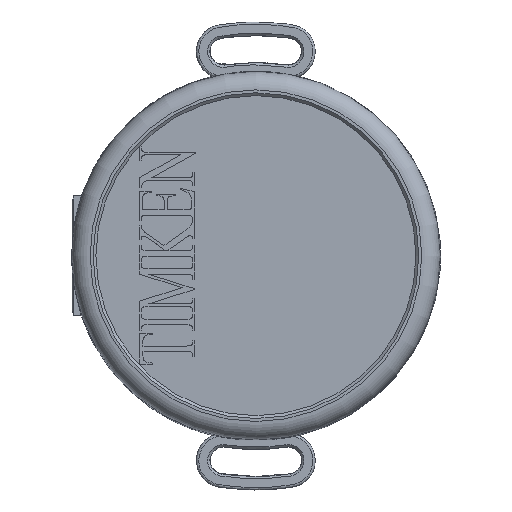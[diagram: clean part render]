
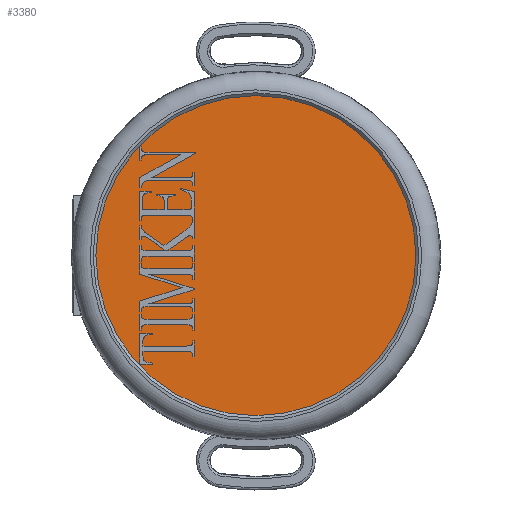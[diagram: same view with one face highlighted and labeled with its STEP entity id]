
A CAD part, top view. The second image highlights one B-rep face of the part: STEP entity #3380.
In plain terms, the highlighted planar face has unit normal (0, 0, 1).
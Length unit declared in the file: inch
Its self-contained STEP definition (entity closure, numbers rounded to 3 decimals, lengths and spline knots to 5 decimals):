
#3380=ADVANCED_FACE('',(#5133),#4136,.F.);
#4136=PLANE('',#23258);
#5133=FACE_OUTER_BOUND('',#6338,.T.);
#6338=EDGE_LOOP('',(#11966));
#7039=CIRCLE('',#23257,0.7);
#11966=ORIENTED_EDGE('',*,*,#17366,.F.);
#14575=VERTEX_POINT('',#39355);
#17366=EDGE_CURVE('',#14575,#14575,#7039,.T.);
#23257=AXIS2_PLACEMENT_3D('',#39354,#27952,#27953);
#23258=AXIS2_PLACEMENT_3D('',#39356,#27954,#27955);
#27952=DIRECTION('',(0.,0.,-1.));
#27953=DIRECTION('',(-1.,0.,0.));
#27954=DIRECTION('',(0.,0.,-1.));
#27955=DIRECTION('',(-1.,0.,0.));
#39354=CARTESIAN_POINT('',(0.,0.,0.668));
#39355=CARTESIAN_POINT('',(-0.7,0.,0.668));
#39356=CARTESIAN_POINT('',(0.,0.,0.668));
